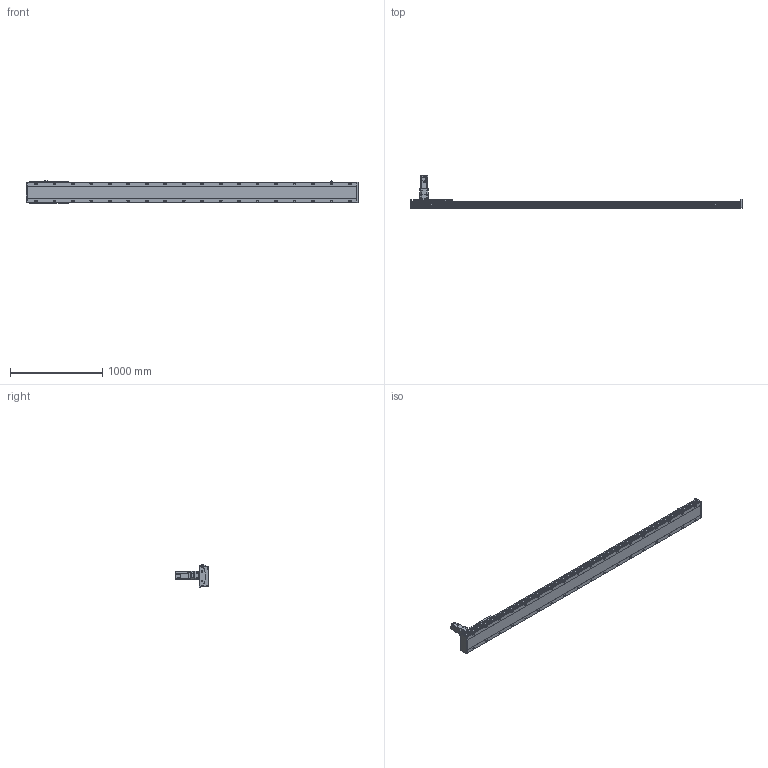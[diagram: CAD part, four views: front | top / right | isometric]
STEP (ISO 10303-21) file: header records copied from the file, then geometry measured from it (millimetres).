
FILE_DESCRIPTION(/* description */ ('STEP AP214'),/* implementation_level */ '2;1');
FILE_NAME(/* name */ 'SHS22A-L13-S3100-BC-T75-C1-N(0)',/* time_stamp */ '2022-06-15T02:27:56+02:00',/* author */ ('License CC BY-ND 4.0'),/* organization */ ('CADENAS'),/* preprocessor_version */ 'ST-DEVELOPER v18.102',/* originating_system */ 'PARTsolutions',/* authorisation */ ' ');
FILE_SCHEMA (('AUTOMOTIVE_DESIGN {1 0 10303 214 3 1 1}'));
Length unit declared in the file: millimetre
Products named in the file (7): SHS22A-L13-S3100-BC-T75-C1-N(0); PSC140-sensor; SHS22A-S3100_body2; T75-p1; SHS22A-S3100_body3; SHS22A-S3100_slider; SHS22A-L13-S3100-BC-T75-C1(0)_body
Assembly tree (13 placements, depth 2):
  SHS22A-L13-S3100-BC-T75-C1-N(0)
    PSC140-sensor  x3
    SHS22A-S3100_body2  x6
    T75-p1
    SHS22A-S3100_body3
    SHS22A-S3100_slider
    SHS22A-L13-S3100-BC-T75-C1(0)_body
Bounding box: 3594 x 350.8 x 238.4 mm (x, y, z)
Volume: 39127141.1 mm3; surface area: 4027875.2 mm2
Topology: 13 solids, 13 shells, 1917 faces, 4919 edges, 3220 vertices
Faces by surface type: plane 1352, cylinder 455, cone 101, torus 9
Full cylindrical faces by diameter (mm): 2.8 x3, 4.2 x2, 4.6 x3, 4.917 x4, 5 x4, 5.6 x24, 6 x31, 6.6 x24, 6.647 x8, 6.8 x9, 7.75 x6, 8 x3, 8.376 x36, 8.5 x36, 10 x4, 11 x4, 12 x24, 14 x36, 22 x1, 24.1 x1, 28 x1, 28.2 x1, 28.8 x1, 48.542 x1, 68 x1, 70 x1, 78 x1, 80 x2
Entity records: 32218 total; most frequent: CARTESIAN_POINT 5801, DIRECTION 5459, ORIENTED_EDGE 4908, EDGE_CURVE 2454, AXIS2_PLACEMENT_3D 1940, VERTEX_POINT 1774, FACE_BOUND 1708, EDGE_LOOP 1707
